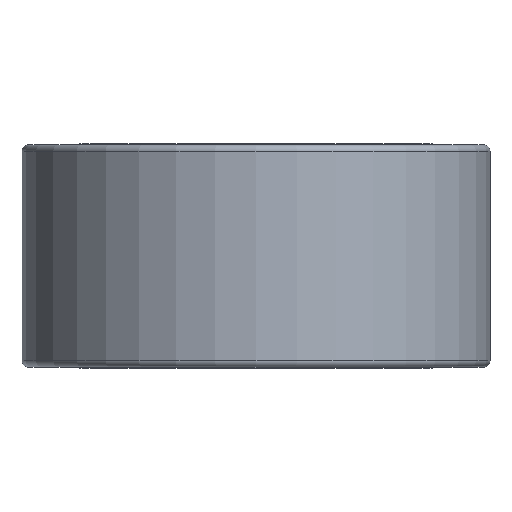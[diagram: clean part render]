
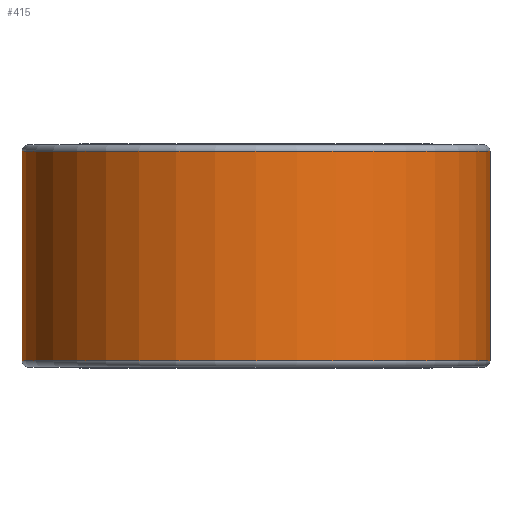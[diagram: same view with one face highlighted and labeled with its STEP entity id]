
A CAD part, front view. The second image highlights one B-rep face of the part: STEP entity #415.
In plain terms, the highlighted cylindrical face has radius 180 mm (diameter 360 mm), a partial arc.
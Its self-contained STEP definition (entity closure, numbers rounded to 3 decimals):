
#21 = DIRECTION ( 'NONE',  ( -1., 0., 0. ) ) ;
#31 = CARTESIAN_POINT ( 'NONE',  ( 180., 0., 171. ) ) ;
#32 = CIRCLE ( 'NONE', #182, 180. ) ;
#46 = ORIENTED_EDGE ( 'NONE', *, *, #575, .T. ) ;
#62 = CARTESIAN_POINT ( 'NONE',  ( -180., 0., 5. ) ) ;
#69 = CYLINDRICAL_SURFACE ( 'NONE', #234, 180. ) ;
#80 = DIRECTION ( 'NONE',  ( 0., 0., -1. ) ) ;
#94 = DIRECTION ( 'NONE',  ( 0., 0., -1. ) ) ;
#103 = CARTESIAN_POINT ( 'NONE',  ( 0., 0., 5. ) ) ;
#131 = EDGE_CURVE ( 'NONE', #578, #391, #213, .T. ) ;
#132 = EDGE_LOOP ( 'NONE', ( #573, #46, #412, #397 ) ) ;
#136 = LINE ( 'NONE', #139, #471 ) ;
#139 = CARTESIAN_POINT ( 'NONE',  ( -180., 0., 171. ) ) ;
#143 = AXIS2_PLACEMENT_3D ( 'NONE', #456, #185, #347 ) ;
#170 = DIRECTION ( 'NONE',  ( 1., 0., 0. ) ) ;
#182 = AXIS2_PLACEMENT_3D ( 'NONE', #103, #221, #170 ) ;
#185 = DIRECTION ( 'NONE',  ( 0., 0., -1. ) ) ;
#213 = LINE ( 'NONE', #31, #270 ) ;
#221 = DIRECTION ( 'NONE',  ( 0., 0., 1. ) ) ;
#224 = FACE_OUTER_BOUND ( 'NONE', #132, .T. ) ;
#234 = AXIS2_PLACEMENT_3D ( 'NONE', #350, #80, #21 ) ;
#243 = CARTESIAN_POINT ( 'NONE',  ( 180., 0., 5. ) ) ;
#270 = VECTOR ( 'NONE', #271, 1000. ) ;
#271 = DIRECTION ( 'NONE',  ( 0., 0., -1. ) ) ;
#300 = CARTESIAN_POINT ( 'NONE',  ( 180., 0., 166. ) ) ;
#305 = VERTEX_POINT ( 'NONE', #62 ) ;
#309 = CIRCLE ( 'NONE', #143, 180. ) ;
#347 = DIRECTION ( 'NONE',  ( 1., 0., 0. ) ) ;
#350 = CARTESIAN_POINT ( 'NONE',  ( 0., 0., 171. ) ) ;
#391 = VERTEX_POINT ( 'NONE', #243 ) ;
#397 = ORIENTED_EDGE ( 'NONE', *, *, #424, .T. ) ;
#412 = ORIENTED_EDGE ( 'NONE', *, *, #541, .T. ) ;
#415 = ADVANCED_FACE ( 'NONE', ( #224 ), #69, .T. ) ;
#424 = EDGE_CURVE ( 'NONE', #305, #391, #32, .T. ) ;
#456 = CARTESIAN_POINT ( 'NONE',  ( 0., 0., 166. ) ) ;
#463 = CARTESIAN_POINT ( 'NONE',  ( -180., 0., 166. ) ) ;
#471 = VECTOR ( 'NONE', #94, 1000. ) ;
#541 = EDGE_CURVE ( 'NONE', #568, #305, #136, .T. ) ;
#568 = VERTEX_POINT ( 'NONE', #463 ) ;
#573 = ORIENTED_EDGE ( 'NONE', *, *, #131, .F. ) ;
#575 = EDGE_CURVE ( 'NONE', #578, #568, #309, .T. ) ;
#578 = VERTEX_POINT ( 'NONE', #300 ) ;
